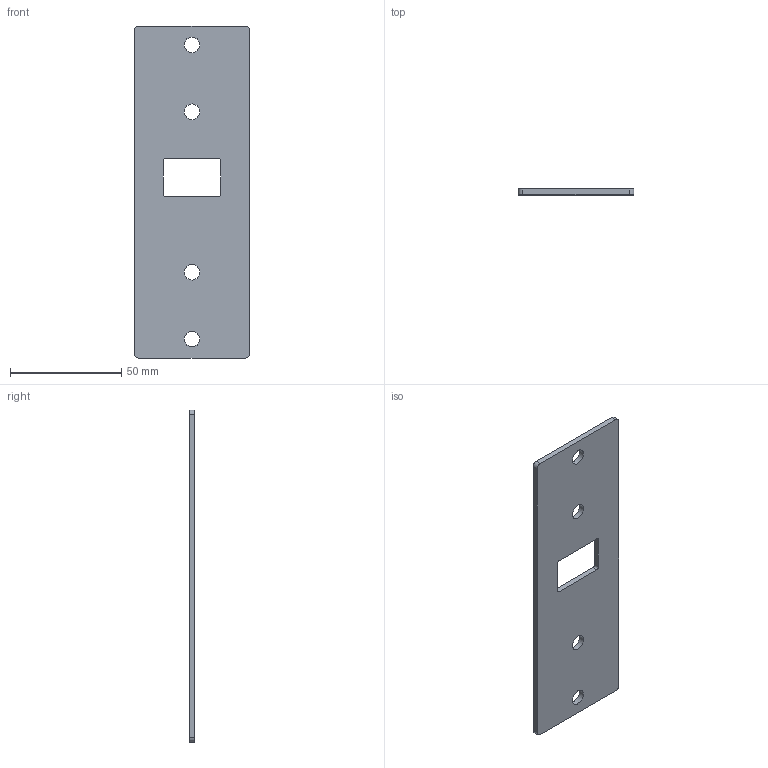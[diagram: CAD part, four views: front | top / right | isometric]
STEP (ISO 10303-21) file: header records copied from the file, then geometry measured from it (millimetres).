
FILE_DESCRIPTION(/* description */ (''),/* implementation_level */ '2;1');
FILE_NAME(/* name */ 'LB VS black 0.stp',/* time_stamp */ '2024-10-17T13:49:07+02:00',/* author */ ('d.streicher'),/* organization */ (''),/* preprocessor_version */ 'ST-DEVELOPER v20',/* originating_system */ 'Autodesk Inventor 2025',/* authorisation */ '');
FILE_SCHEMA (('AUTOMOTIVE_DESIGN { 1 0 10303 214 3 1 1 }'));
Length unit declared in the file: millimetre
Products named in the file (1): LB VS black 0°
Bounding box: 52 x 2.5 x 149 mm (x, y, z)
Volume: 17873.7 mm3; surface area: 15726 mm2
Topology: 1 solids, 1 shells, 22 faces, 60 edges, 40 vertices
Faces by surface type: cylinder 12, plane 10
Full cylindrical faces by diameter (mm): 7 x4
Entity records: 802 total; most frequent: DIRECTION 130, CARTESIAN_POINT 123, ORIENTED_EDGE 120, EDGE_CURVE 60, AXIS2_PLACEMENT_3D 47, VERTEX_POINT 40, LINE 36, VECTOR 36
